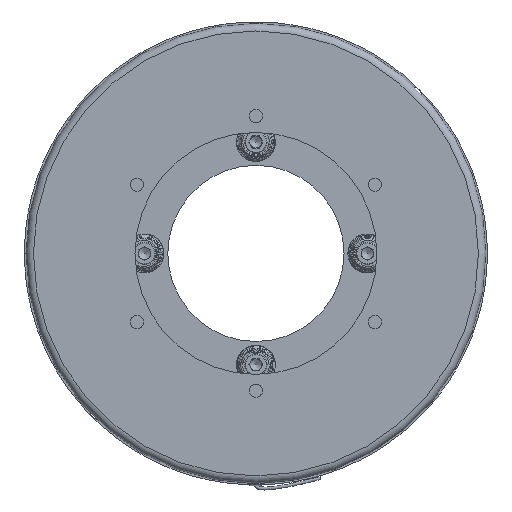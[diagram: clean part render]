
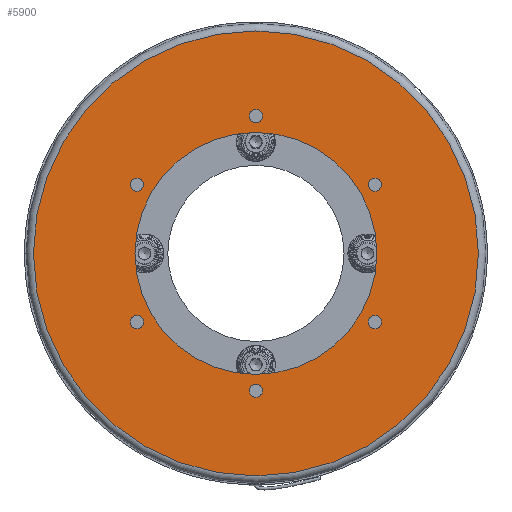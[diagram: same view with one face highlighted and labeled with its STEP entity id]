
A CAD part, left-side view. The second image highlights one B-rep face of the part: STEP entity #5900.
In plain terms, the highlighted planar face has unit normal (-1, 0, 0).
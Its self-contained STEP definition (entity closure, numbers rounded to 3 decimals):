
#63=FACE_BOUND('',#1446,.T.);
#64=FACE_BOUND('',#1447,.T.);
#65=FACE_BOUND('',#1448,.T.);
#66=FACE_BOUND('',#1449,.T.);
#67=FACE_BOUND('',#1450,.T.);
#68=FACE_BOUND('',#1451,.T.);
#69=FACE_BOUND('',#1452,.T.);
#926=PLANE('',#6295);
#1112=FACE_OUTER_BOUND('',#1445,.T.);
#1445=EDGE_LOOP('',(#3863));
#1446=EDGE_LOOP('',(#3864));
#1447=EDGE_LOOP('',(#3865));
#1448=EDGE_LOOP('',(#3866));
#1449=EDGE_LOOP('',(#3867));
#1450=EDGE_LOOP('',(#3868));
#1451=EDGE_LOOP('',(#3869));
#1452=EDGE_LOOP('',(#3870));
#1920=CIRCLE('',#6293,149.);
#1922=CIRCLE('',#6296,81.);
#1923=CIRCLE('',#6297,4.375);
#1924=CIRCLE('',#6298,4.375);
#1925=CIRCLE('',#6299,4.375);
#1926=CIRCLE('',#6300,4.375);
#1927=CIRCLE('',#6301,4.375);
#1928=CIRCLE('',#6302,4.375);
#2395=VERTEX_POINT('',#9156);
#2396=VERTEX_POINT('',#9161);
#2397=VERTEX_POINT('',#9163);
#2398=VERTEX_POINT('',#9165);
#2399=VERTEX_POINT('',#9167);
#2400=VERTEX_POINT('',#9169);
#2401=VERTEX_POINT('',#9171);
#2402=VERTEX_POINT('',#9173);
#2979=EDGE_CURVE('',#2395,#2395,#1920,.T.);
#2981=EDGE_CURVE('',#2396,#2396,#1922,.T.);
#2982=EDGE_CURVE('',#2397,#2397,#1923,.T.);
#2983=EDGE_CURVE('',#2398,#2398,#1924,.T.);
#2984=EDGE_CURVE('',#2399,#2399,#1925,.T.);
#2985=EDGE_CURVE('',#2400,#2400,#1926,.T.);
#2986=EDGE_CURVE('',#2401,#2401,#1927,.T.);
#2987=EDGE_CURVE('',#2402,#2402,#1928,.T.);
#3863=ORIENTED_EDGE('',*,*,#2979,.F.);
#3864=ORIENTED_EDGE('',*,*,#2981,.T.);
#3865=ORIENTED_EDGE('',*,*,#2982,.T.);
#3866=ORIENTED_EDGE('',*,*,#2983,.T.);
#3867=ORIENTED_EDGE('',*,*,#2984,.T.);
#3868=ORIENTED_EDGE('',*,*,#2985,.T.);
#3869=ORIENTED_EDGE('',*,*,#2986,.T.);
#3870=ORIENTED_EDGE('',*,*,#2987,.T.);
#5900=ADVANCED_FACE('',(#1112,#63,#64,#65,#66,#67,#68,#69),#926,.T.);
#6293=AXIS2_PLACEMENT_3D('',#9158,#7048,#7049);
#6295=AXIS2_PLACEMENT_3D('',#9160,#7052,#7053);
#6296=AXIS2_PLACEMENT_3D('',#9162,#7054,#7055);
#6297=AXIS2_PLACEMENT_3D('',#9164,#7056,#7057);
#6298=AXIS2_PLACEMENT_3D('',#9166,#7058,#7059);
#6299=AXIS2_PLACEMENT_3D('',#9168,#7060,#7061);
#6300=AXIS2_PLACEMENT_3D('',#9170,#7062,#7063);
#6301=AXIS2_PLACEMENT_3D('',#9172,#7064,#7065);
#6302=AXIS2_PLACEMENT_3D('',#9174,#7066,#7067);
#7048=DIRECTION('center_axis',(1.,0.,0.));
#7049=DIRECTION('ref_axis',(0.,0.,1.));
#7052=DIRECTION('center_axis',(-1.,0.,0.));
#7053=DIRECTION('ref_axis',(0.,0.,1.));
#7054=DIRECTION('center_axis',(1.,0.,0.));
#7055=DIRECTION('ref_axis',(0.,0.,1.));
#7056=DIRECTION('center_axis',(1.,0.,0.));
#7057=DIRECTION('ref_axis',(0.,0.,-1.));
#7058=DIRECTION('center_axis',(1.,0.,0.));
#7059=DIRECTION('ref_axis',(0.,0.866,-0.5));
#7060=DIRECTION('center_axis',(1.,0.,0.));
#7061=DIRECTION('ref_axis',(0.,0.866,0.5));
#7062=DIRECTION('center_axis',(1.,0.,0.));
#7063=DIRECTION('ref_axis',(0.,0.,1.));
#7064=DIRECTION('center_axis',(1.,0.,0.));
#7065=DIRECTION('ref_axis',(0.,-0.866,0.5));
#7066=DIRECTION('center_axis',(1.,0.,0.));
#7067=DIRECTION('ref_axis',(0.,-0.866,-0.5));
#9156=CARTESIAN_POINT('',(-48.75,0.,149.));
#9158=CARTESIAN_POINT('Origin',(-48.75,0.,0.));
#9160=CARTESIAN_POINT('Origin',(-48.75,0.,0.));
#9161=CARTESIAN_POINT('',(-48.75,0.,-81.));
#9162=CARTESIAN_POINT('Origin',(-48.75,0.,0.));
#9163=CARTESIAN_POINT('',(-48.75,79.674,50.375));
#9164=CARTESIAN_POINT('Origin',(-48.75,79.674,46.));
#9165=CARTESIAN_POINT('',(-48.75,-3.789,94.188));
#9166=CARTESIAN_POINT('Origin',(-48.75,0.,92.));
#9167=CARTESIAN_POINT('',(-48.75,-83.463,43.813));
#9168=CARTESIAN_POINT('Origin',(-48.75,-79.674,46.));
#9169=CARTESIAN_POINT('',(-48.75,-79.674,-50.375));
#9170=CARTESIAN_POINT('Origin',(-48.75,-79.674,-46.));
#9171=CARTESIAN_POINT('',(-48.75,3.789,-94.188));
#9172=CARTESIAN_POINT('Origin',(-48.75,0.,-92.));
#9173=CARTESIAN_POINT('',(-48.75,83.463,-43.813));
#9174=CARTESIAN_POINT('Origin',(-48.75,79.674,-46.));
